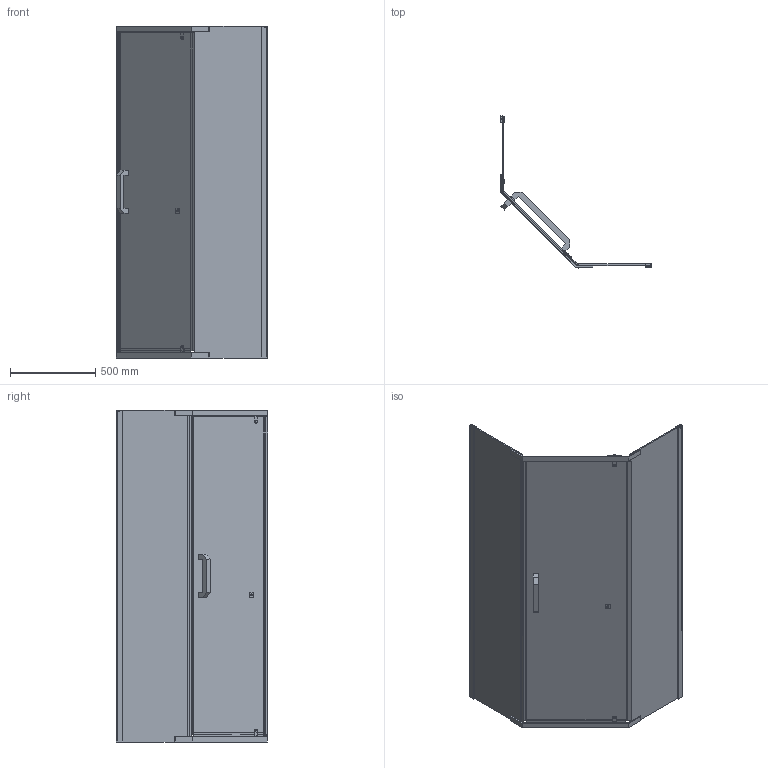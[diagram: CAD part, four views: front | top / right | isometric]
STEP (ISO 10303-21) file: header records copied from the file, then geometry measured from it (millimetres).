
FILE_DESCRIPTION (( 'STEP AP203' ), '1' );
FILE_NAME ('郰坒滇.STEP', '2024-04-03T17:10:01', ( 'China' ), ( 'Home' ), 'SwSTEP 2.0', 'SolidWorks 2011', '' );
FILE_SCHEMA (( 'CONFIG_CONTROL_DESIGN' ));
Length unit declared in the file: millimetre
Products named in the file (52): 郰坒滇; Imported_50; Imported_49; Imported_48; Imported_47; Imported_46; Imported_45; Imported_44; Imported_43; Imported_42; Imported_41; Imported_40; Imported_39; Imported_38; Imported_37; Imported_36; Imported_35; Imported_34; Imported_33; Imported_32; Imported_31; Imported_30; Imported_29; Imported_28; Imported_27; Imported_26; Imported_25; Imported_24; Imported_23; Imported_22; Imported_21; Imported_20; Imported_19; Imported_18; Imported_17; Imported_16; Imported_15; Imported_14; Imported_13; Imported_12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
Assembly tree (51 placements, depth 2):
  郰坒滇
    Imported_47
    Imported_40
    Imported_36
    Imported_26
    Imported_24
    Imported_46
    Imported_42
    Imported_10
    Imported_37
    Imported_35
    Imported_20
    Imported_27
    Imported_8
    Imported_6
    Imported_25
    Imported_5
    Imported
    Imported_11
    Imported_4
    Imported_33
    Imported_32
    Imported_48
    Imported_34
    Imported_23
    Imported_50
    Imported_22
    Imported_3
    Imported_15
    Imported_2
    Imported_14
    Imported_9
    Imported_1
    Imported_39
    Imported_28
    Imported_12
    Imported_45
    Imported_44
    Imported_13
    Imported_43
    Imported_16
    Imported_7
    Imported_38
    Imported_29
    Imported_17
    Imported_49
    Imported_41
    Imported_21
    Imported_18
    Imported_31
    Imported_30
    Imported_19
Bounding box: 890.53 x 890.8 x 1952 mm (x, y, z)
Volume: 24275398.4 mm3; surface area: 7573600.8 mm2
Topology: 49 solids, 51 shells, 838 faces, 2150 edges, 1420 vertices
Faces by surface type: plane 436, cone 200, cylinder 194, bspline 8
Entity records: 31961 total; most frequent: CARTESIAN_POINT 5712, DIRECTION 4438, ORIENTED_EDGE 4122, EDGE_CURVE 2142, AXIS2_PLACEMENT_3D 1499, LINE 1440, VECTOR 1440, VERTEX_POINT 1420
